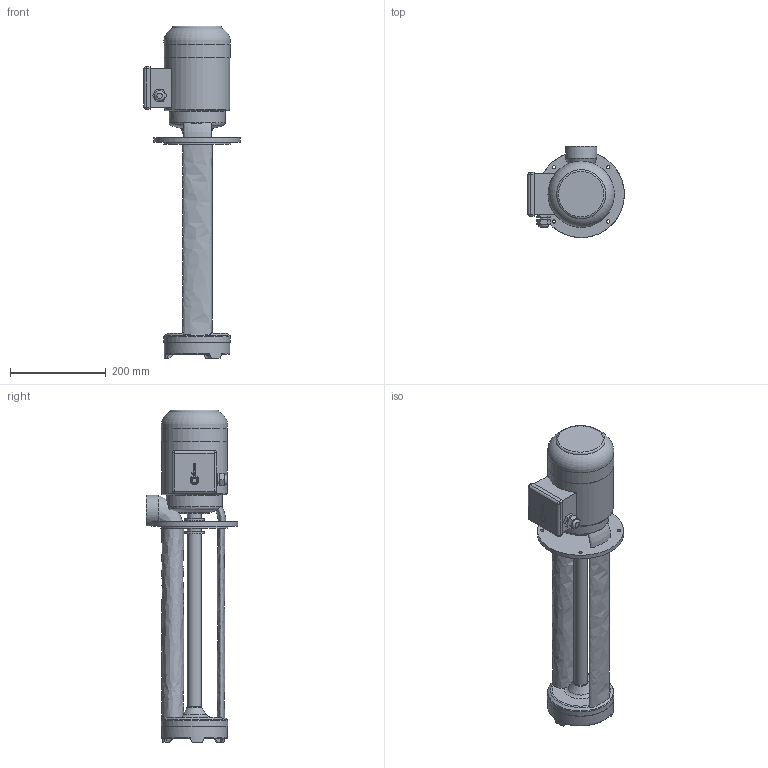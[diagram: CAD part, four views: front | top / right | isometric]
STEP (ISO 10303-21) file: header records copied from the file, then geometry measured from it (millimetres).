
FILE_DESCRIPTION(/* description */ ('Unknown'),/* implementation_level */ '2;1');
FILE_NAME(/* name */ 'EPV 250-450',/* time_stamp */ '2025-05-30T15:10:05+03:00',/* author */ ('Unknown'),/* organization */ ('Unknown'),/* preprocessor_version */ 'ST-DEVELOPER v16.7',/* originating_system */ 'DEX',/* authorisation */ $);
FILE_SCHEMA (('AUTOMOTIVE_DESIGN {1 0 10303 214 3 1 1}'));
Length unit declared in the file: millimetre
Products named in the file (1): EPV 250-450
Bounding box: 201.5 x 190 x 692.36 mm (x, y, z)
Volume: 5767429.1 mm3; surface area: 402042.4 mm2
Topology: 1 solids, 1 shells, 268 faces, 678 edges, 435 vertices
Faces by surface type: plane 91, bspline 81, cylinder 56, torus 26, cone 14
Full cylindrical faces by diameter (mm): 7 x4, 17 x1, 21.5 x1, 28 x1, 29 x3, 30 x1, 42 x2, 44 x1, 48 x1, 62 x1, 94 x1, 116.969 x1, 136.473 x1, 137 x1, 137.994 x1, 139 x1, 140 x1, 180 x1
Entity records: 11389 total; most frequent: CARTESIAN_POINT 5687, ORIENTED_EDGE 1212, DIRECTION 973, EDGE_CURVE 606, VERTEX_POINT 419, AXIS2_PLACEMENT_3D 372, EDGE_LOOP 363, FACE_BOUND 363
